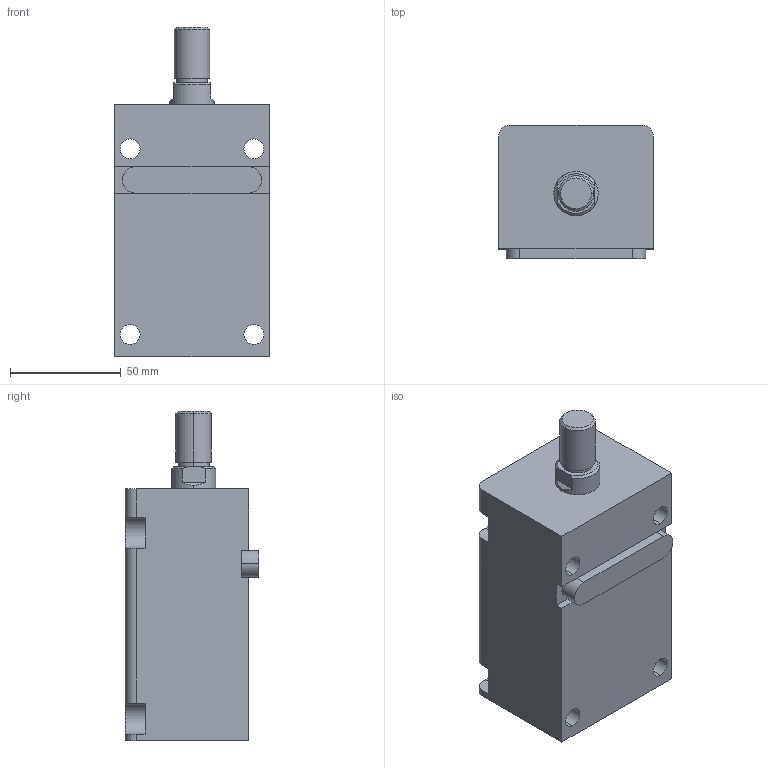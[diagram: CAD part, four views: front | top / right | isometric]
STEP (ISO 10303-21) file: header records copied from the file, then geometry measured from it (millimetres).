
FILE_DESCRIPTION (( 'STEP AP203' ), '1' );
FILE_NAME ('HTB-LA32-60W.STEP', '2019-10-09T06:29:25', ( '微软用户' ), ( '微软中国' ), 'SwSTEP 2.0', 'SolidWorks 2012', '' );
FILE_SCHEMA (( 'CONFIG_CONTROL_DESIGN' ));
Length unit declared in the file: millimetre
Products named in the file (4): HTB-LA32-60掛极; HTB-LA32-60W活塞杆; HTB-LA32-瑩; HTB-LA32-60W
Assembly tree (3 placements, depth 2):
  HTB-LA32-60W
    HTB-LA32-60掛极
    HTB-LA32-60W活塞杆
    HTB-LA32-瑩
Bounding box: 70 x 60.5 x 149 mm (x, y, z)
Volume: 407012.7 mm3; surface area: 66478.1 mm2
Topology: 3 solids, 3 shells, 92 faces, 223 edges, 146 vertices
Faces by surface type: plane 41, cylinder 37, cone 8, torus 6
Entity records: 3159 total; most frequent: DIRECTION 509, CARTESIAN_POINT 495, ORIENTED_EDGE 446, EDGE_CURVE 223, AXIS2_PLACEMENT_3D 196, VERTEX_POINT 146, VECTOR 117, LINE 117
